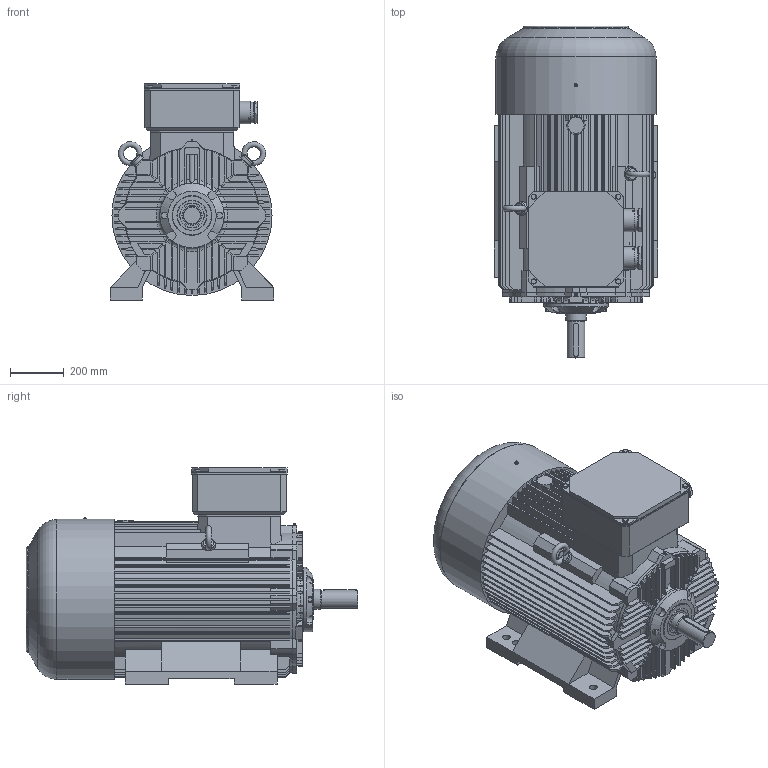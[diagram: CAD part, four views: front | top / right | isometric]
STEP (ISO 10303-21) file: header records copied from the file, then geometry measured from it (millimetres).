
FILE_DESCRIPTION( ( 'Unknown' ), '1' );
FILE_NAME( 'P:/3D_Bry³y silników skatalogowane/SIE/2SIE315/STP_2SIE315/2SIE315_2.stp', 'Unknown', ( 'Unknown' ), ( 'Unknown' ), 'XStep 1.0', 'Unknown', ' ' );
FILE_SCHEMA( ( 'CONFIG_CONTROL_DESIGN' ) );
Length unit declared in the file: millimetre
Products named in the file (2): 1; 2
Bounding box: 610 x 1235 x 804.5 mm (x, y, z)
Volume: 266254163.4 mm3; surface area: 6269008.4 mm2
Topology: 2 solids, 27 shells, 1329 faces, 3575 edges, 2344 vertices
Faces by surface type: plane 889, cylinder 256, cone 87, torus 81, bspline 16
Full cylindrical faces by diameter (mm): 1.6 x2, 4.917 x2, 5 x3, 10.106 x8, 13.835 x1, 16.63 x4, 19.6 x2, 20.752 x4, 28 x6, 36 x1, 50 x2, 55 x2, 57 x4, 65 x5, 70 x2, 71 x6, 72 x2, 72.752 x2, 74.5 x1, 76 x2, 85 x2, 90 x1, 99.4 x1, 100 x1, 111.399 x1, 112 x1, 119.4 x1, 119.999 x1, 131.399 x1, 132 x1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
Entity records: 49676 total; most frequent: CARTESIAN_POINT 17124, ORIENTED_EDGE 6742, DIRECTION 6551, EDGE_CURVE 3371, VERTEX_POINT 2292, AXIS2_PLACEMENT_3D 2204, LINE 2143, VECTOR 2143
